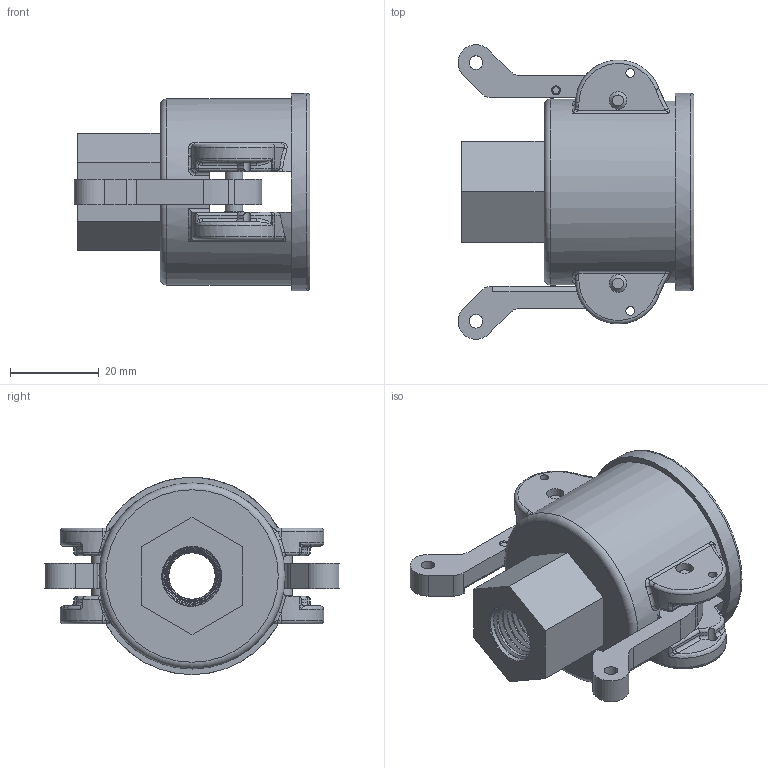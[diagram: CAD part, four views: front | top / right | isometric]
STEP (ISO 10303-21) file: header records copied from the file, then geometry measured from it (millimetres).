
FILE_DESCRIPTION(/* description */ ('Alibre Inc.'),/* implementation_level */ '2;1');
FILE_NAME(/* name */ 'export0',/* time_stamp */ '2015-12-30T14:39:21-05:00',/* author */ (''),/* organization */ (''),/* preprocessor_version */ 'ST-DEVELOPER v14',/* originating_system */ 'Alibre',/* authorisation */ '');
FILE_SCHEMA (('CONFIG_CONTROL_DESIGN'));
Length unit declared in the file: centimetre
Products named in the file (5): ID_1; ID_2; ID_3
Bounding box: 53.16 x 66.36 x 44.45 mm (x, y, z)
Volume: 35710.6 mm3; surface area: 20237.8 mm2
Topology: 6 solids, 6 shells, 258 faces, 674 edges, 423 vertices
Faces by surface type: plane 75, cylinder 72, torus 41, bspline 35, cone 34, sphere 1
Full cylindrical faces by diameter (mm): 1.981 x4, 3.048 x2, 3.962 x6, 4.216 x2, 4.242 x2, 10.414 x1, 19.05 x1, 22.352 x1, 32.512 x1, 35.052 x1, 35.814 x1, 41.91 x1, 44.45 x1
Entity records: 30060 total; most frequent: CARTESIAN_POINT 24512, ORIENTED_EDGE 1138, DIRECTION 833, EDGE_CURVE 569, AXIS2_PLACEMENT_3D 371, VERTEX_POINT 370, EDGE_LOOP 281, FACE_BOUND 281
